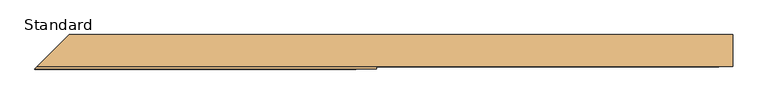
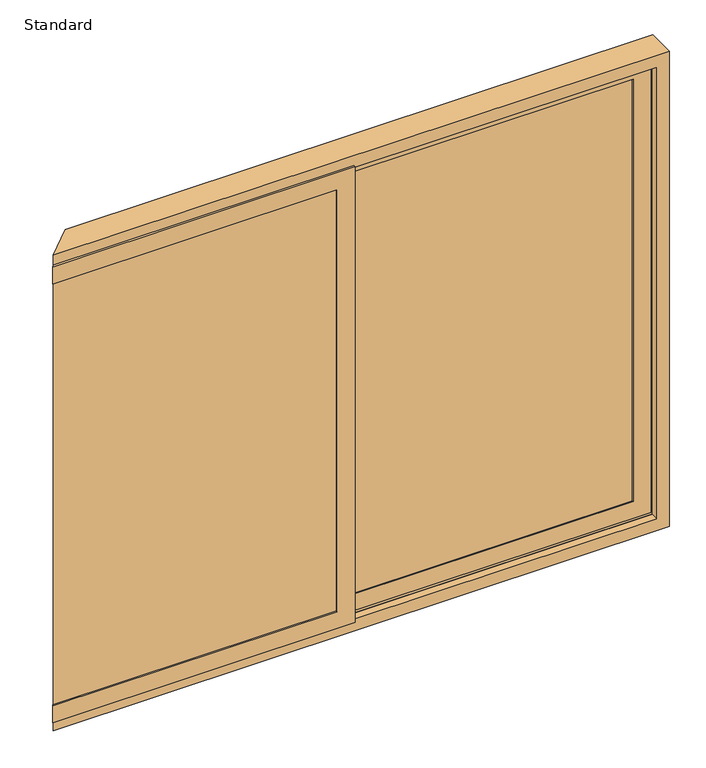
"""IFC4 building model written with IfcOpenShell, lengths in millimetres: door geometry, SMARTS_Visoglide Plus Corner : Standard."""

from ifc_helpers import new_model, si_unit, frame, origin, place, context, project, spatial, polyline, outline, extrude, faceted_brep, source, transform, mapped, element, save


def standard_595d0532(model_context):
    return source(origin(), model_context, "Body", "SolidModel", [
        extrude(outline(polyline([(1242.5, 67.0), (1242.5, 63.0), (26.5, 63.0), (26.5, 67.0), (1242.5, 67.0)])), frame((0.0, 0.0, 907.5), z_axis=(0.0, 0.0, 1.0), x_axis=(1.0, 0.0, 0.0)), (0.0, 0.0, 1.0), 1885.0),
        extrude(outline(polyline([(1242.5, 47.0), (1242.5, 43.0), (26.5, 43.0), (26.5, 47.0), (1242.5, 47.0)])), frame((0.0, 0.0, 907.5), z_axis=(0.0, 0.0, 1.0), x_axis=(1.0, 0.0, 0.0)), (0.0, 0.0, 1.0), 1885.0),
        extrude(outline(polyline([(2792.5, 1242.5), (2792.5, 26.5), (907.5, 26.5), (907.5, 1242.5), (2792.5, 1242.5)]), holes=[polyline([(2782.5, 36.5), (2782.5, 1232.5), (917.5, 1232.5), (917.5, 36.5), (2782.5, 36.5)])]), frame((0.0, 47.0, 0.0), z_axis=(0.0, 1.0, 0.0), x_axis=(0.0, 0.0, 1.0)), (0.0, 0.0, 1.0), 16.0),
        extrude(outline(polyline([(902.5, 1247.5), (2797.5, 1247.5), (2797.5, 21.5), (902.5, 21.5), (902.5, 1247.5)]), holes=[polyline([(2777.5, 1227.5), (922.5, 1227.5), (922.5, 41.5), (2777.5, 41.5), (2777.5, 1227.5)])]), frame((0.0, 74.0102223, 0.0), z_axis=(0.0, 1.0, 0.0), x_axis=(0.0, 0.0, 1.0)), (0.0, 0.0, 1.0), 11.9897777),
        extrude(outline(polyline([(848.5, 1301.5), (2851.5, 1301.5), (2851.5, -32.5), (848.5, -32.5), (848.5, 1301.5)]), holes=[polyline([(2797.5, 1247.5), (902.5, 1247.5), (902.5, 21.5), (2797.5, 21.5), (2797.5, 1247.5)])]), frame((0.0, 62.0, 0.0), z_axis=(0.0, 1.0, 0.0), x_axis=(0.0, 0.0, 1.0)), (0.0, 0.0, 1.0), 24.0),
        faceted_brep([(1227.5, 39.0, 2777.5), (1227.5, 39.0, 922.5), (1227.5, 35.0, 922.5), (1227.5, 35.0, 2777.5), (1250.5, 62.0, 2800.5), (1250.5, 62.0, 899.5), (1250.5, 39.0, 899.5), (1250.5, 39.0, 2800.5), (1301.5, 35.0, 2851.5), (1301.5, 35.0, 848.5), (1301.5, 62.0, 848.5), (1301.5, 62.0, 2851.5), (41.5, 39.0, 922.5), (41.5, 35.0, 922.5), (18.5, 62.0, 899.5), (18.5, 39.0, 899.5), (-32.5, 35.0, 848.5), (-32.5, 62.0, 848.5), (41.5, 39.0, 2777.5), (41.5, 35.0, 2777.5), (18.5, 62.0, 2800.5), (18.5, 39.0, 2800.5), (-32.5, 35.0, 2851.5), (-32.5, 62.0, 2851.5)], [[[0, 1, 2, 3]], [[4, 5, 6, 7]], [[8, 9, 10, 11]], [[1, 12, 13, 2]], [[5, 14, 15, 6]], [[9, 16, 17, 10]], [[12, 18, 19, 13]], [[14, 20, 21, 15]], [[16, 22, 23, 17]], [[9, 8, 22, 16], [3, 2, 13, 19]], [[18, 0, 3, 19]], [[7, 6, 15, 21], [1, 0, 18, 12]], [[20, 4, 7, 21]], [[11, 10, 17, 23], [5, 4, 20, 14]], [[22, 8, 11, 23]]]),
        extrude(outline(polyline([(-26.5, -24.0), (-1217.0, -24.0), (-1213.0, -20.0), (-26.5, -20.0), (-26.5, -24.0)])), frame((0.0, 0.0, 907.5), z_axis=(0.0, 0.0, 1.0), x_axis=(1.0, 0.0, 0.0)), (0.0, 0.0, 1.0), 1885.0),
        extrude(outline(polyline([(-26.5, -4.0), (-1197.0, -4.0), (-1193.0, 0.0), (-26.5, 0.0), (-26.5, -4.0)])), frame((0.0, 0.0, 907.5), z_axis=(0.0, 0.0, 1.0), x_axis=(1.0, 0.0, 0.0)), (0.0, 0.0, 1.0), 1885.0),
        faceted_brep([(-36.5, -4.0, 2782.5), (-36.5, -4.0, 917.5), (-36.5, -20.0, 917.5), (-36.5, -20.0, 2782.5), (-1197.0, -4.0, 2782.5), (-1197.0, -4.0, 2792.5), (-26.5, -4.0, 2792.5), (-26.5, -4.0, 907.5), (-1197.0, -4.0, 907.5), (-1197.0, -4.0, 917.5), (-1213.0, -20.0, 2782.5), (-1213.0, -20.0, 2792.5), (-26.5, -20.0, 2792.5), (-26.5, -20.0, 907.5), (-1213.0, -20.0, 917.5), (-1213.0, -20.0, 907.5)], [[[0, 1, 2, 3]], [[0, 4, 5, 6, 7, 8, 9, 1]], [[3, 10, 4, 0]], [[6, 5, 11, 12]], [[12, 13, 7, 6]], [[1, 9, 14, 2]], [[13, 15, 8, 7]], [[2, 14, 15, 13, 12, 11, 10, 3]], [[9, 8, 15, 14]], [[10, 11, 5, 4]]]),
        faceted_brep([(-1185.9897777, 7.0102223, 2777.5), (-1185.9897777, 7.0102223, 2797.5), (-1174.0, 19.0, 2797.5), (-1174.0, 19.0, 2777.5), (-1174.0, 19.0, 922.5), (-1174.0, 19.0, 902.5), (-1185.9897777, 7.0102223, 902.5), (-1185.9897777, 7.0102223, 922.5), (-41.5, 7.0102223, 922.5), (-41.5, 7.0102223, 2777.5), (-41.5, 19.0, 2777.5), (-41.5, 19.0, 922.5), (-21.5, 19.0, 902.5), (-21.5, 19.0, 2797.5), (-21.5, 7.0102223, 2797.5), (-21.5, 7.0102223, 902.5)], [[[0, 1, 2, 3]], [[4, 5, 6, 7]], [[8, 9, 10, 11]], [[12, 13, 14, 15]], [[9, 0, 3, 10]], [[13, 2, 1, 14]], [[11, 4, 7, 8]], [[8, 7, 6, 15, 14, 1, 0, 9]], [[15, 6, 5, 12]], [[10, 3, 2, 13, 12, 5, 4, 11]]]),
        faceted_brep([(-1174.0, 19.0, 2851.5), (-1174.0, 19.0, 2797.5), (-1202.5, -9.5, 2797.5), (-1202.5, -9.5, 2851.5), (-1202.5, -9.5, 902.5), (-1174.0, 19.0, 902.5), (-1174.0, 19.0, 848.5), (-1202.5, -9.5, 848.5), (32.5, 19.0, 848.5), (32.5, 19.0, 2851.5), (32.5, -9.5, 2851.5), (32.5, -9.5, 848.5), (-21.5, -9.5, 902.5), (-21.5, -9.5, 2797.5), (-21.5, 19.0, 2797.5), (-21.5, 19.0, 902.5)], [[[0, 1, 2, 3]], [[4, 5, 6, 7]], [[8, 9, 10, 11]], [[12, 13, 14, 15]], [[9, 0, 3, 10]], [[13, 2, 1, 14]], [[10, 3, 2, 13, 12, 4, 7, 11]], [[11, 7, 6, 8]], [[8, 6, 5, 15, 14, 1, 0, 9]], [[15, 5, 4, 12]]]),
        faceted_brep([(-1221.0, -28.0, 922.5), (-1221.0, -28.0, 899.5), (-1202.5, -9.5, 899.5), (-1202.5, -9.5, 848.5), (-1225.0, -32.0, 848.5), (-1225.0, -32.0, 922.5), (-1225.0, -32.0, 2851.5), (-1202.5, -9.5, 2851.5), (-1202.5, -9.5, 2800.5), (-1221.0, -28.0, 2800.5), (-1221.0, -28.0, 2777.5), (-1225.0, -32.0, 2777.5), (-41.5, -28.0, 2777.5), (-41.5, -28.0, 922.5), (-41.5, -32.0, 922.5), (-41.5, -32.0, 2777.5), (-18.5, -9.5, 2800.5), (-18.5, -9.5, 899.5), (-18.5, -28.0, 899.5), (-18.5, -28.0, 2800.5), (32.5, -32.0, 2851.5), (32.5, -32.0, 848.5), (32.5, -9.5, 848.5), (32.5, -9.5, 2851.5)], [[[0, 1, 2, 3, 4, 5]], [[6, 7, 8, 9, 10, 11]], [[12, 13, 14, 15]], [[16, 17, 18, 19]], [[20, 21, 22, 23]], [[13, 0, 5, 14]], [[17, 2, 1, 18]], [[21, 4, 3, 22]], [[14, 5, 4, 21, 20, 6, 11, 15]], [[15, 11, 10, 12]], [[12, 10, 9, 19, 18, 1, 0, 13]], [[19, 9, 8, 16]], [[16, 8, 7, 23, 22, 3, 2, 17]], [[23, 7, 6, 20]]]),
        faceted_brep([(1345.0, 95.0, 2895.0), (-1098.0, 95.0, 2895.0), (-1215.7989407, -22.7989407, 2895.0), (1345.0, -22.7989407, 2895.0), (1293.1999999, 91.0, 2843.1999999), (-1102.0, 91.0, 2843.1999999), (-1098.0, 95.0, 2843.1999999), (1293.1999999, 95.0, 2843.1999999), (1319.1999999, 76.3, 2869.1999999), (-1116.7, 76.3, 2869.1999999), (-1102.0, 91.0, 2869.1999999), (1319.1999999, 91.0, 2869.1999999), (1293.1999999, 43.7842251, 2843.1999999), (-1149.2157749, 43.7842251, 2843.1999999), (-1116.7, 76.3, 2843.1999999), (1293.1999999, 76.3, 2843.1999999), (1319.1999999, 9.7842251, 2869.1999999), (-1183.2157749, 9.7842251, 2869.1999999), (-1149.2157749, 43.7842251, 2869.1999999), (1319.1999999, 43.7842251, 2869.1999999), (1293.1999999, -22.7989407, 2843.1999999), (-1215.7989407, -22.7989407, 2843.1999999), (-1183.2157749, 9.7842251, 2843.1999999), (1293.1999999, 9.7842251, 2843.1999999), (1345.0, -22.7989407, 805.0), (-1215.7989407, -22.7989407, 805.0), (-1098.0, 95.0, 805.0), (1345.0, 95.0, 805.0), (1293.1999999, 95.0, 856.8000001), (-1098.0, 95.0, 856.8000001), (-1102.0, 91.0, 856.8000001), (1293.1999999, 91.0, 856.8000001), (1319.1999999, 91.0, 830.8000001), (-1102.0, 91.0, 830.8000001), (-1116.7, 76.3, 830.8000001), (1319.1999999, 76.3, 830.8000001), (1293.1999999, 76.3, 856.8000001), (-1116.7, 76.3, 856.8000001), (-1149.2157749, 43.7842251, 856.8000001), (1293.1999999, 43.7842251, 856.8000001), (1319.1999999, 43.7842251, 830.8000001), (-1149.2157749, 43.7842251, 830.8000001), (-1183.2157749, 9.7842251, 830.8000001), (1319.1999999, 9.7842251, 830.8000001), (1293.1999999, 9.7842251, 856.8000001), (-1183.2157749, 9.7842251, 856.8000001), (-1215.7989407, -22.7989407, 856.8000001), (1293.1999999, -22.7989407, 856.8000001)], [[[0, 1, 2, 3]], [[4, 5, 6, 7]], [[8, 9, 10, 11]], [[12, 13, 14, 15]], [[16, 17, 18, 19]], [[20, 21, 22, 23]], [[24, 25, 26, 27]], [[28, 29, 30, 31]], [[32, 33, 34, 35]], [[36, 37, 38, 39]], [[40, 41, 42, 43]], [[44, 45, 46, 47]], [[3, 24, 27, 0]], [[27, 26, 29, 28, 7, 6, 1, 0]], [[7, 28, 31, 4]], [[31, 30, 33, 32, 11, 10, 5, 4]], [[11, 32, 35, 8]], [[35, 34, 37, 36, 15, 14, 9, 8]], [[15, 36, 39, 12]], [[39, 38, 41, 40, 19, 18, 13, 12]], [[19, 40, 43, 16]], [[43, 42, 45, 44, 23, 22, 17, 16]], [[23, 44, 47, 20]], [[3, 2, 21, 20, 47, 46, 25, 24]], [[1, 6, 5, 10, 9, 14, 13, 18, 17, 22, 21, 2]], [[25, 46, 45, 42, 41, 38, 37, 34, 33, 30, 29, 26]]]),
    ])


if __name__ == "__main__":
    model = new_model("IFC4")
    model_context = context("Model", 3, world=origin())
    ifc_project = project(units=[si_unit("LENGTHUNIT", "METRE", prefix="MILLI")], contexts=[model_context])
    site = spatial("IfcSite", under=ifc_project)
    building = spatial("IfcBuilding", under=site)
    placement = place(None, origin())
    standard_shape = standard_595d0532(model_context)
    element("IfcDoor", 1, ObjectType="SMARTS_Visoglide Plus Corner : Standard", at=placement, inside=building, context=model_context, shape_type="MappedRepresentation", body=[
        mapped(standard_shape, transform((0.0, 0.0, 0.0), x_axis=(1.0, 0.0, 0.0), y_axis=(0.0, 1.0, 0.0), z_axis=(0.0, 0.0, 1.0))),
    ])
    save(model, "model.ifc")
